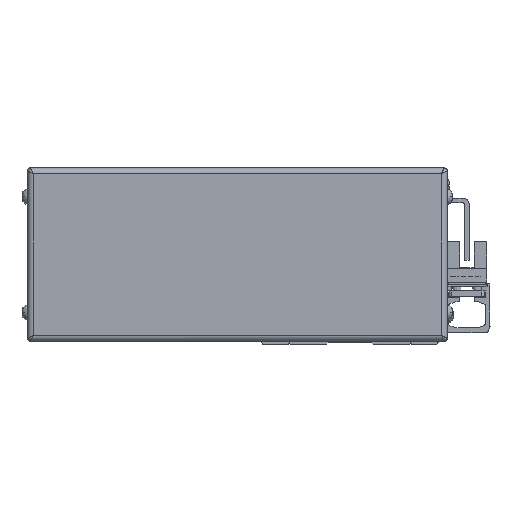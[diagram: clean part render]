
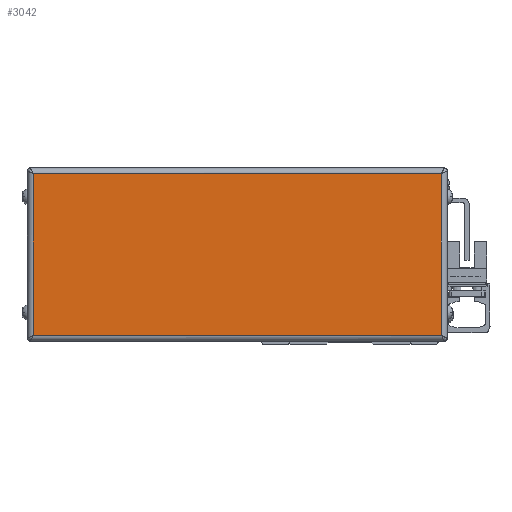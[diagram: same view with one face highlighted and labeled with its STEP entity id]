
A CAD part, left-side view. The second image highlights one B-rep face of the part: STEP entity #3042.
In plain terms, the highlighted planar face has unit normal (-1, 0, 0).
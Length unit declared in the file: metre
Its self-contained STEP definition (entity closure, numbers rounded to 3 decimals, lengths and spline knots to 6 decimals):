
#3042=ADVANCED_FACE('',(#7130),#7131,.T.);
#7130=FACE_OUTER_BOUND('',#13183,.T.);
#7131=PLANE('',#13184);
#13183=EDGE_LOOP('',(#23080,#23081,#23082,#23083));
#13184=AXIS2_PLACEMENT_3D('',#23084,#23085,#23086);
#23080=ORIENTED_EDGE('',*,*,#39000,.T.);
#23081=ORIENTED_EDGE('',*,*,#39001,.T.);
#23082=ORIENTED_EDGE('',*,*,#38993,.T.);
#23083=ORIENTED_EDGE('',*,*,#39002,.T.);
#23084=CARTESIAN_POINT('',(-0.054,0.039,-0.001));
#23085=DIRECTION('',(-1.0,0.0,0.0));
#23086=DIRECTION('',(0.0,0.,1.0));
#38993=EDGE_CURVE('',#45270,#45275,#45277,.T.);
#39000=EDGE_CURVE('',#45288,#45289,#45290,.T.);
#39001=EDGE_CURVE('',#45289,#45270,#45291,.T.);
#39002=EDGE_CURVE('',#45275,#45288,#45292,.T.);
#45270=VERTEX_POINT('',#54590);
#45275=VERTEX_POINT('',#54611);
#45277=LINE('',#54629,#54630);
#45288=VERTEX_POINT('',#54644);
#45289=VERTEX_POINT('',#54645);
#45290=LINE('',#54646,#54647);
#45291=LINE('',#54648,#54649);
#45292=LINE('',#54650,#54651);
#54590=CARTESIAN_POINT('',(-0.054,0.1097,-0.029));
#54611=CARTESIAN_POINT('',(-0.054,-0.0317,-0.029));
#54629=CARTESIAN_POINT('',(-0.054,0.039,-0.029));
#54630=VECTOR('',#68090,1.0);
#54644=CARTESIAN_POINT('',(-0.054,-0.0317,0.027));
#54645=CARTESIAN_POINT('',(-0.054,0.1097,0.027));
#54646=CARTESIAN_POINT('',(-0.054,0.039,0.027));
#54647=VECTOR('',#68097,1.0);
#54648=CARTESIAN_POINT('',(-0.054,0.1097,-0.001));
#54649=VECTOR('',#68098,1.0);
#54650=CARTESIAN_POINT('',(-0.054,-0.0317,-0.001));
#54651=VECTOR('',#68099,1.0);
#68090=DIRECTION('',(0.0,-1.0,0.));
#68097=DIRECTION('',(0.0,1.0,0.));
#68098=DIRECTION('',(0.0,0.,-1.0));
#68099=DIRECTION('',(0.0,0.,1.0));
